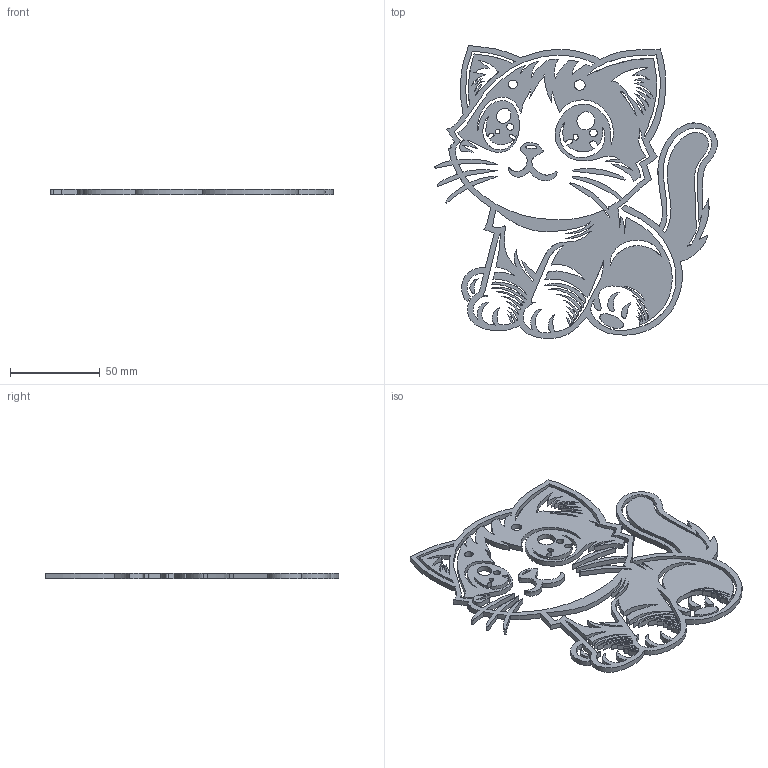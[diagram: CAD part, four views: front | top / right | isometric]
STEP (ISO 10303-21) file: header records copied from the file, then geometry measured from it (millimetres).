
FILE_DESCRIPTION(('STEP AP214'),'1');
FILE_NAME('2.stp','2026-07-04T12:55:47',(' '),(' '),'Spatial InterOp 3D',' ',' ');
FILE_SCHEMA(('AUTOMOTIVE_DESIGN { 1 0 10303 214 1 1 1 1 }'));
Length unit declared in the file: metre
Products named in the file (15): 1783172655; 1783172670; 1783172672; 1783172675; 1783172676; 1783172677; 1783172678; 1783172679; 1783172680; 1783172681; 1783172682; 1783172684; 1783172685; 1783172686; 1
Bounding box: 157.86 x 163.78 x 3 mm (x, y, z)
Volume: 33587 mm3; surface area: 37538.1 mm2
Topology: 14 solids, 14 shells, 261 faces, 932 edges, 699 vertices
Faces by surface type: extrusion 233, plane 28
Entity records: 18433 total; most frequent: CARTESIAN_POINT 9332, ORIENTED_EDGE 1378, B_SPLINE_CURVE_WITH_KNOTS 844, EDGE_CURVE 689, DIRECTION 542, VERTEX_POINT 466, VECTOR 456, STYLED_ITEM 349
